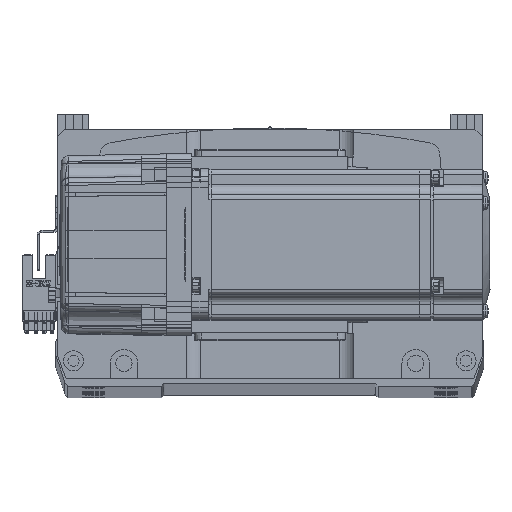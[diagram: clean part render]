
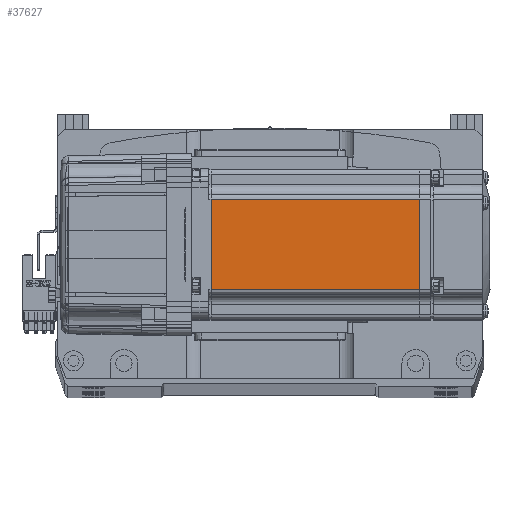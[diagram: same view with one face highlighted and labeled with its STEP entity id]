
A CAD part, top view. The second image highlights one B-rep face of the part: STEP entity #37627.
In plain terms, the highlighted planar face has unit normal (0, 0, 1) as drawn and (0, -1, 0) by its records, which use the part's own axes.
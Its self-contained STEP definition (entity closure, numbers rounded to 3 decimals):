
#1017 = CARTESIAN_POINT ( 'NONE',  ( -6.5, -30., -25. ) ) ;
#7214 = CARTESIAN_POINT ( 'NONE',  ( -6.5, -30., 18. ) ) ;
#7321 = CARTESIAN_POINT ( 'NONE',  ( -7.75, -30., -18. ) ) ;
#7358 = VERTEX_POINT ( 'NONE', #7536 ) ;
#7536 = CARTESIAN_POINT ( 'NONE',  ( -90.45, -30., 18. ) ) ;
#8911 = EDGE_LOOP ( 'NONE', ( #45673, #24981, #20454, #57535 ) ) ;
#9390 = VERTEX_POINT ( 'NONE', #7321 ) ;
#11078 = DIRECTION ( 'NONE',  ( 0., -1., 0. ) ) ;
#11422 = EDGE_CURVE ( 'NONE', #9390, #20997, #43736, .T. ) ;
#17485 = EDGE_CURVE ( 'NONE', #7358, #42160, #37406, .T. ) ;
#17769 = VECTOR ( 'NONE', #46983, 1000. ) ;
#17916 = EDGE_CURVE ( 'NONE', #42160, #9390, #33190, .T. ) ;
#19628 = VECTOR ( 'NONE', #66418, 1000. ) ;
#20454 = ORIENTED_EDGE ( 'NONE', *, *, #17485, .T. ) ;
#20997 = VERTEX_POINT ( 'NONE', #63261 ) ;
#24981 = ORIENTED_EDGE ( 'NONE', *, *, #53796, .T. ) ;
#26184 = PLANE ( 'NONE',  #37806 ) ;
#27985 = DIRECTION ( 'NONE',  ( 1., 0., 0. ) ) ;
#30703 = VECTOR ( 'NONE', #48196, 1000. ) ;
#32313 = VECTOR ( 'NONE', #27985, 1000. ) ;
#33190 = LINE ( 'NONE', #65979, #32313 ) ;
#37406 = LINE ( 'NONE', #47963, #30703 ) ;
#37627 = ADVANCED_FACE ( 'NONE', ( #65406 ), #26184, .T. ) ;
#37806 = AXIS2_PLACEMENT_3D ( 'NONE', #1017, #11078, #43542 ) ;
#42160 = VERTEX_POINT ( 'NONE', #68199 ) ;
#43542 = DIRECTION ( 'NONE',  ( 0., 0., -1. ) ) ;
#43736 = LINE ( 'NONE', #46758, #17769 ) ;
#45673 = ORIENTED_EDGE ( 'NONE', *, *, #11422, .T. ) ;
#46758 = CARTESIAN_POINT ( 'NONE',  ( -7.75, -30., -25. ) ) ;
#46983 = DIRECTION ( 'NONE',  ( 0., 0., 1. ) ) ;
#47963 = CARTESIAN_POINT ( 'NONE',  ( -90.45, -30., -25. ) ) ;
#48196 = DIRECTION ( 'NONE',  ( 0., 0., -1. ) ) ;
#53796 = EDGE_CURVE ( 'NONE', #20997, #7358, #64895, .T. ) ;
#57535 = ORIENTED_EDGE ( 'NONE', *, *, #17916, .T. ) ;
#63261 = CARTESIAN_POINT ( 'NONE',  ( -7.75, -30., 18. ) ) ;
#64895 = LINE ( 'NONE', #7214, #19628 ) ;
#65406 = FACE_OUTER_BOUND ( 'NONE', #8911, .T. ) ;
#65979 = CARTESIAN_POINT ( 'NONE',  ( -6.5, -30., -18. ) ) ;
#66418 = DIRECTION ( 'NONE',  ( -1., 0., 0. ) ) ;
#68199 = CARTESIAN_POINT ( 'NONE',  ( -90.45, -30., -18. ) ) ;
